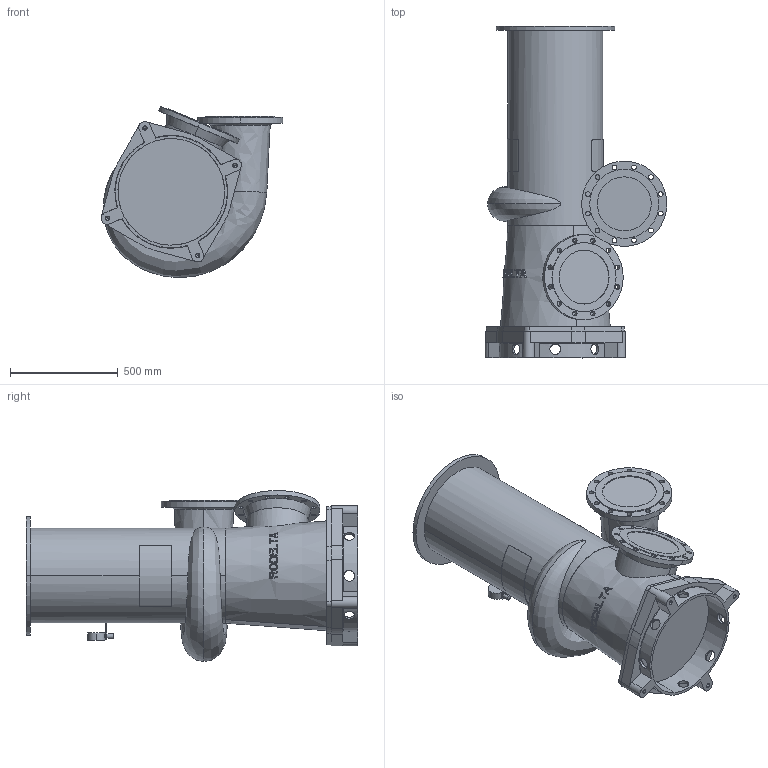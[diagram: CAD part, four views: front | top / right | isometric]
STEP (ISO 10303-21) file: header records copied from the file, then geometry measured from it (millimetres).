
FILE_DESCRIPTION((''),'2;1');
FILE_NAME('8510_ASM','2024-07-30T',('Lyritlocal'),(''),'PRO/ENGINEER BY PARAMETRIC TECHNOLOGY CORPORATION, 2016360','PRO/ENGINEER BY PARAMETRIC TECHNOLOGY CORPORATION, 2016360','');
FILE_SCHEMA(('CONFIG_CONTROL_DESIGN'));
Length unit declared in the file: millimetre
Products named in the file (3): 8510; 8510_VOET; 8510_ASM
Assembly tree (2 placements, depth 2):
  8510_ASM
    8510
    8510_VOET
Bounding box: 842.92 x 1539 x 792.32 mm (x, y, z)
Volume: 297748321.2 mm3; surface area: 4725053.7 mm2
Topology: 2 solids, 6 shells, 542 faces, 1460 edges, 967 vertices
Faces by surface type: plane 343, cylinder 155, cone 34, bspline 6, torus 4
Entity records: 19328 total; most frequent: CARTESIAN_POINT 6085, ORIENTED_EDGE 2888, DIRECTION 2477, EDGE_CURVE 1452, VERTEX_POINT 967, AXIS2_PLACEMENT_3D 961, EDGE_LOOP 659, VECTOR 555
